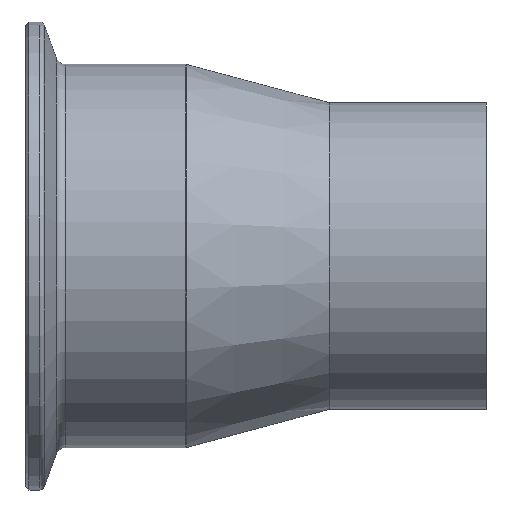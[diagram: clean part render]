
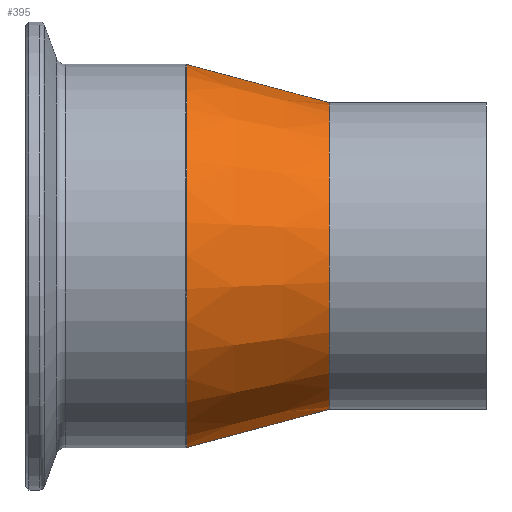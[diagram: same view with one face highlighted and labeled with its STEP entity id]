
A CAD part, top view. The second image highlights one B-rep face of the part: STEP entity #395.
In plain terms, the highlighted conical face has half-angle 15 degrees and reference radius 25.4 mm.
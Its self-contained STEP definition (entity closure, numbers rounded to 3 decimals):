
#3 = LINE ( 'NONE', #628, #74 ) ;
#6 = CARTESIAN_POINT ( 'NONE',  ( -26., 0., 0. ) ) ;
#73 = EDGE_CURVE ( 'NONE', #1108, #412, #3, .T. ) ;
#74 = VECTOR ( 'NONE', #738, 1000. ) ;
#84 = ORIENTED_EDGE ( 'NONE', *, *, #852, .F. ) ;
#89 = CARTESIAN_POINT ( 'NONE',  ( -26., 0., 0. ) ) ;
#117 = DIRECTION ( 'NONE',  ( -0.966, 0.259, 0. ) ) ;
#143 = CIRCLE ( 'NONE', #1008, 31.723 ) ;
#178 = ORIENTED_EDGE ( 'NONE', *, *, #604, .T. ) ;
#182 = CARTESIAN_POINT ( 'NONE',  ( -26., 25.4, 0. ) ) ;
#226 = VERTEX_POINT ( 'NONE', #1063 ) ;
#245 = CARTESIAN_POINT ( 'NONE',  ( -49.597, -31.723, 0. ) ) ;
#251 = DIRECTION ( 'NONE',  ( 0., 1., 0. ) ) ;
#252 = CONICAL_SURFACE ( 'NONE', #993, 25.4, 0.262 ) ;
#258 = VECTOR ( 'NONE', #117, 1000. ) ;
#298 = ORIENTED_EDGE ( 'NONE', *, *, #1011, .T. ) ;
#342 = CIRCLE ( 'NONE', #1049, 25.4 ) ;
#351 = EDGE_LOOP ( 'NONE', ( #84, #298, #178, #652 ) ) ;
#395 = ADVANCED_FACE ( 'NONE', ( #979 ), #252, .T. ) ;
#402 = CARTESIAN_POINT ( 'NONE',  ( -26., -25.4, 0. ) ) ;
#412 = VERTEX_POINT ( 'NONE', #245 ) ;
#515 = DIRECTION ( 'NONE',  ( -1., 0., 0. ) ) ;
#548 = CARTESIAN_POINT ( 'NONE',  ( -49.597, 0., 0. ) ) ;
#604 = EDGE_CURVE ( 'NONE', #226, #412, #143, .T. ) ;
#628 = CARTESIAN_POINT ( 'NONE',  ( -26., -25.4, 0. ) ) ;
#636 = DIRECTION ( 'NONE',  ( 1., 0., 0. ) ) ;
#652 = ORIENTED_EDGE ( 'NONE', *, *, #73, .F. ) ;
#730 = DIRECTION ( 'NONE',  ( 0., 1., 0. ) ) ;
#738 = DIRECTION ( 'NONE',  ( -0.966, -0.259, 0. ) ) ;
#826 = VERTEX_POINT ( 'NONE', #1034 ) ;
#852 = EDGE_CURVE ( 'NONE', #826, #1108, #342, .T. ) ;
#856 = DIRECTION ( 'NONE',  ( 1., 0., 0. ) ) ;
#954 = LINE ( 'NONE', #182, #258 ) ;
#979 = FACE_OUTER_BOUND ( 'NONE', #351, .T. ) ;
#993 = AXIS2_PLACEMENT_3D ( 'NONE', #6, #515, #1102 ) ;
#1008 = AXIS2_PLACEMENT_3D ( 'NONE', #548, #636, #730 ) ;
#1011 = EDGE_CURVE ( 'NONE', #826, #226, #954, .T. ) ;
#1034 = CARTESIAN_POINT ( 'NONE',  ( -26., 25.4, 0. ) ) ;
#1049 = AXIS2_PLACEMENT_3D ( 'NONE', #89, #856, #251 ) ;
#1063 = CARTESIAN_POINT ( 'NONE',  ( -49.597, 31.723, 0. ) ) ;
#1102 = DIRECTION ( 'NONE',  ( 0., -1., 0. ) ) ;
#1108 = VERTEX_POINT ( 'NONE', #402 ) ;
